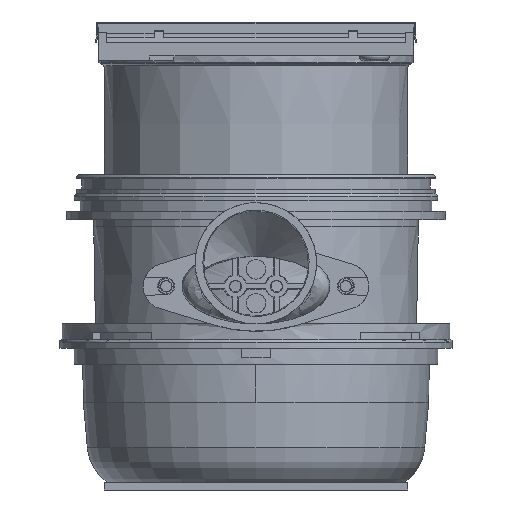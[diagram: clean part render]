
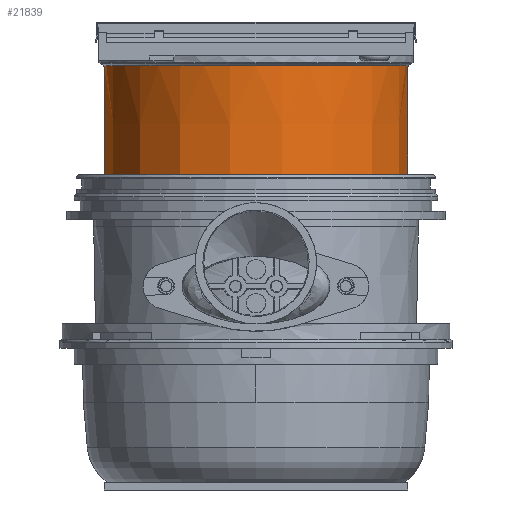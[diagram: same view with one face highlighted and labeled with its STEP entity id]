
A CAD part, left-side view. The second image highlights one B-rep face of the part: STEP entity #21839.
In plain terms, the highlighted conical face has half-angle 0.124 degrees and reference radius 62.544 mm.
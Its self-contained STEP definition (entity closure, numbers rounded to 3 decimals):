
#2398=FACE_OUTER_BOUND('',#3586,.T.);
#3586=EDGE_LOOP('',(#16600,#16601,#16602,#16603));
#4621=CIRCLE('',#23349,62.529);
#4629=CIRCLE('',#23367,62.685);
#5757=LINE('',#36094,#7494);
#5758=LINE('',#36097,#7495);
#7494=VECTOR('',#26743,72.548);
#7495=VECTOR('',#26746,72.548);
#9380=VERTEX_POINT('',#36066);
#9381=VERTEX_POINT('',#36067);
#9386=VERTEX_POINT('',#36093);
#9387=VERTEX_POINT('',#36095);
#11959=EDGE_CURVE('',#9381,#9380,#4621,.T.);
#11970=EDGE_CURVE('',#9381,#9386,#5757,.T.);
#11972=EDGE_CURVE('',#9380,#9387,#5758,.T.);
#11973=EDGE_CURVE('',#9387,#9386,#4629,.T.);
#16600=ORIENTED_EDGE('',*,*,#11970,.F.);
#16601=ORIENTED_EDGE('',*,*,#11959,.T.);
#16602=ORIENTED_EDGE('',*,*,#11972,.T.);
#16603=ORIENTED_EDGE('',*,*,#11973,.T.);
#20109=CONICAL_SURFACE('',#23366,62.544,0.124);
#21839=ADVANCED_FACE('',(#2398),#20109,.T.);
#23349=AXIS2_PLACEMENT_3D('',#36069,#26707,#26708);
#23366=AXIS2_PLACEMENT_3D('',#36098,#26747,#26748);
#23367=AXIS2_PLACEMENT_3D('',#36099,#26749,#26750);
#26707=DIRECTION('center_axis',(0.,0.,1.));
#26708=DIRECTION('ref_axis',(-0.294,-0.956,0.));
#26743=DIRECTION('',(0.,0.002,1.));
#26746=DIRECTION('',(0.,-0.002,1.));
#26747=DIRECTION('center_axis',(0.,0.,
1.));
#26748=DIRECTION('ref_axis',(-0.294,-0.956,0.));
#26749=DIRECTION('center_axis',(0.,0.,
-1.));
#26750=DIRECTION('ref_axis',(0.,-1.,
0.));
#36066=CARTESIAN_POINT('',(0.,-62.529,-27.5));
#36067=CARTESIAN_POINT('',(0.,62.529,-27.5));
#36069=CARTESIAN_POINT('Origin',(0.001,0.,
-27.5));
#36093=CARTESIAN_POINT('',(0.,62.685,45.047));
#36094=CARTESIAN_POINT('',(0.,62.529,-27.5));
#36095=CARTESIAN_POINT('',(0.,-62.685,45.047));
#36097=CARTESIAN_POINT('',(0.,-62.529,-27.5));
#36098=CARTESIAN_POINT('Origin',(0.001,0.,
-20.245));
#36099=CARTESIAN_POINT('Origin',(0.001,0.,
45.047));
